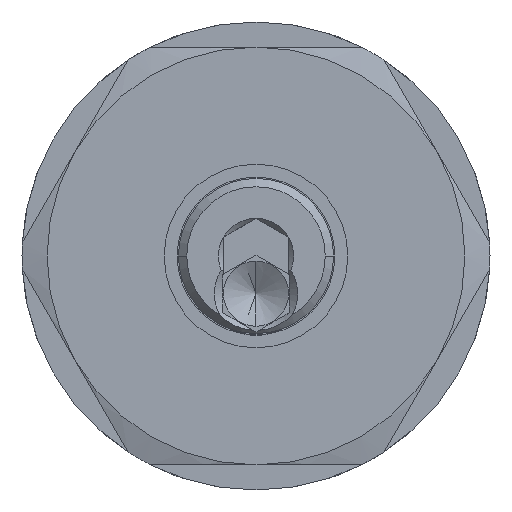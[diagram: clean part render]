
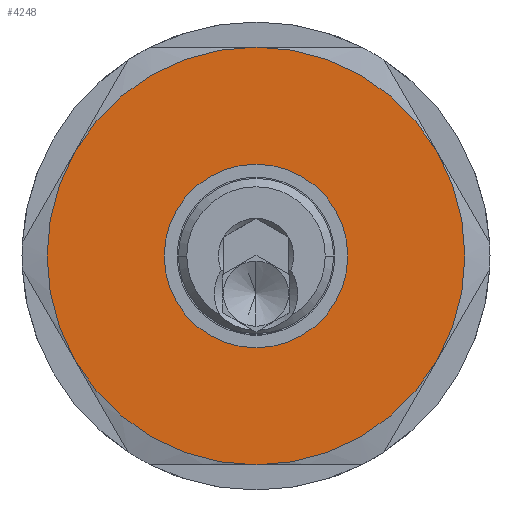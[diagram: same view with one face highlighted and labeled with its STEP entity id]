
A CAD part, left-side view. The second image highlights one B-rep face of the part: STEP entity #4248.
In plain terms, the highlighted planar face has unit normal (-1, 0, 0).
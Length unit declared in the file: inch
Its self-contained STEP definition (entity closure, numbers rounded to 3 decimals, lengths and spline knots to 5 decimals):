
#2583=CARTESIAN_POINT('',(-0.30503,0.21975,2.69497));
#2584=VERTEX_POINT('',#2583);
#2593=CARTESIAN_POINT('',(-0.30503,-0.21975,2.69497));
#2594=VERTEX_POINT('',#2593);
#2595=CARTESIAN_POINT('',(-0.30503,0.,2.69497));
#2596=DIRECTION('',(1.0,0.0,0.0));
#2597=DIRECTION('',(0.0,1.0,0.0));
#2598=AXIS2_PLACEMENT_3D('',#2595,#2596,#2597);
#2599=CIRCLE('',#2598,0.21975);
#2600=EDGE_CURVE('',#2594,#2584,#2599,.T.);
#4173=CARTESIAN_POINT('',(-0.30503,0.,2.69497));
#4174=DIRECTION('',(1.0,0.0,0.0));
#4175=DIRECTION('',(0.0,1.0,0.0));
#4176=AXIS2_PLACEMENT_3D('',#4173,#4174,#4175);
#4177=CIRCLE('',#4176,0.21975);
#4178=EDGE_CURVE('',#2584,#2594,#4177,.T.);
#4183=CARTESIAN_POINT('',(-0.30503,0.,2.69497));
#4184=DIRECTION('',(-1.0,0.0,0.0));
#4185=DIRECTION('',(0.0,0.0,1.0));
#4186=AXIS2_PLACEMENT_3D('',#4183,#4184,#4185);
#4187=PLANE('',#4186);
#4188=CARTESIAN_POINT('',(-0.30503,-0.43301,2.94497));
#4189=VERTEX_POINT('',#4188);
#4190=CARTESIAN_POINT('',(-0.30503,0.,3.19497));
#4191=VERTEX_POINT('',#4190);
#4192=CARTESIAN_POINT('',(-0.30503,0.,2.69497));
#4193=DIRECTION('',(-1.0,0.0,0.0));
#4194=DIRECTION('',(0.0,0.0,-1.0));
#4195=AXIS2_PLACEMENT_3D('',#4192,#4193,#4194);
#4196=CIRCLE('',#4195,0.5);
#4197=EDGE_CURVE('',#4189,#4191,#4196,.T.);
#4198=ORIENTED_EDGE('',*,*,#4197,.T.);
#4199=CARTESIAN_POINT('',(-0.30503,0.43301,2.94497));
#4200=VERTEX_POINT('',#4199);
#4201=CARTESIAN_POINT('',(-0.30503,0.,2.69497));
#4202=DIRECTION('',(-1.0,0.0,0.0));
#4203=DIRECTION('',(0.0,0.0,-1.0));
#4204=AXIS2_PLACEMENT_3D('',#4201,#4202,#4203);
#4205=CIRCLE('',#4204,0.5);
#4206=EDGE_CURVE('',#4191,#4200,#4205,.T.);
#4207=ORIENTED_EDGE('',*,*,#4206,.T.);
#4208=CARTESIAN_POINT('',(-0.30503,0.43301,2.44497));
#4209=VERTEX_POINT('',#4208);
#4210=CARTESIAN_POINT('',(-0.30503,0.,2.69497));
#4211=DIRECTION('',(-1.0,0.0,0.0));
#4212=DIRECTION('',(0.0,0.0,-1.0));
#4213=AXIS2_PLACEMENT_3D('',#4210,#4211,#4212);
#4214=CIRCLE('',#4213,0.5);
#4215=EDGE_CURVE('',#4200,#4209,#4214,.T.);
#4216=ORIENTED_EDGE('',*,*,#4215,.T.);
#4217=CARTESIAN_POINT('',(-0.30503,0.,2.19497));
#4218=VERTEX_POINT('',#4217);
#4219=CARTESIAN_POINT('',(-0.30503,0.,2.69497));
#4220=DIRECTION('',(-1.0,0.0,0.0));
#4221=DIRECTION('',(0.0,0.0,-1.0));
#4222=AXIS2_PLACEMENT_3D('',#4219,#4220,#4221);
#4223=CIRCLE('',#4222,0.5);
#4224=EDGE_CURVE('',#4209,#4218,#4223,.T.);
#4225=ORIENTED_EDGE('',*,*,#4224,.T.);
#4226=CARTESIAN_POINT('',(-0.30503,-0.43301,2.44497));
#4227=VERTEX_POINT('',#4226);
#4228=CARTESIAN_POINT('',(-0.30503,0.,2.69497));
#4229=DIRECTION('',(-1.0,0.0,0.0));
#4230=DIRECTION('',(0.0,0.0,-1.0));
#4231=AXIS2_PLACEMENT_3D('',#4228,#4229,#4230);
#4232=CIRCLE('',#4231,0.5);
#4233=EDGE_CURVE('',#4218,#4227,#4232,.T.);
#4234=ORIENTED_EDGE('',*,*,#4233,.T.);
#4235=CARTESIAN_POINT('',(-0.30503,0.,2.69497));
#4236=DIRECTION('',(-1.0,0.0,0.0));
#4237=DIRECTION('',(0.0,0.0,-1.0));
#4238=AXIS2_PLACEMENT_3D('',#4235,#4236,#4237);
#4239=CIRCLE('',#4238,0.5);
#4240=EDGE_CURVE('',#4227,#4189,#4239,.T.);
#4241=ORIENTED_EDGE('',*,*,#4240,.T.);
#4242=EDGE_LOOP('',(#4198,#4207,#4216,#4225,#4234,#4241));
#4243=FACE_OUTER_BOUND('',#4242,.T.);
#4244=ORIENTED_EDGE('',*,*,#4178,.T.);
#4245=ORIENTED_EDGE('',*,*,#2600,.T.);
#4246=EDGE_LOOP('',(#4244,#4245));
#4247=FACE_BOUND('',#4246,.T.);
#4248=ADVANCED_FACE('',(#4243,#4247),#4187,.T.);
